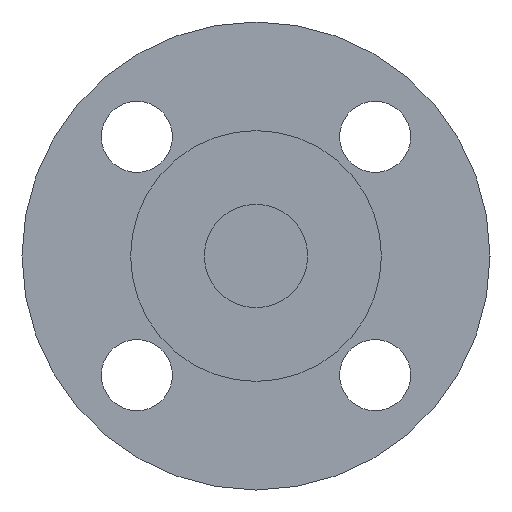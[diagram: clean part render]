
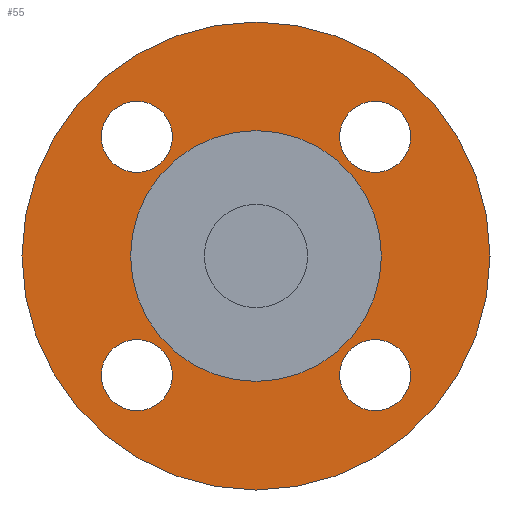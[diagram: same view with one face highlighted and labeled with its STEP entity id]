
A CAD part, left-side view. The second image highlights one B-rep face of the part: STEP entity #55.
In plain terms, the highlighted planar face has unit normal (-1, 0, 0).
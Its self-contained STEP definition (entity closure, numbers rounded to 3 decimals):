
#55=ADVANCED_FACE('',(#257,#258,#259,#260,#261,#262),#256,.T.);
#256=PLANE('',#810);
#257=FACE_OUTER_BOUND('',#811,.T.);
#258=FACE_BOUND('',#812,.T.);
#259=FACE_BOUND('',#813,.T.);
#260=FACE_BOUND('',#814,.T.);
#261=FACE_BOUND('',#815,.T.);
#262=FACE_BOUND('',#816,.T.);
#807=CARTESIAN_POINT('',(1.,-118.253,-135.));
#808=DIRECTION('',(-1.,0.,0.));
#809=DIRECTION('',(0.,0.,1.));
#810=AXIS2_PLACEMENT_3D('',#807,#808,#809);
#811=EDGE_LOOP('',(#1127,#1128));
#812=EDGE_LOOP('',(#1129,#1130));
#813=EDGE_LOOP('',(#1131,#1132));
#814=EDGE_LOOP('',(#1133,#1134));
#815=EDGE_LOOP('',(#1135,#1136));
#816=EDGE_LOOP('',(#1137,#1138));
#1127=ORIENTED_EDGE('',*,*,#1400,.T.);
#1128=ORIENTED_EDGE('',*,*,#1401,.T.);
#1129=ORIENTED_EDGE('',*,*,#1402,.F.);
#1130=ORIENTED_EDGE('',*,*,#1403,.F.);
#1131=ORIENTED_EDGE('',*,*,#1404,.F.);
#1132=ORIENTED_EDGE('',*,*,#1405,.F.);
#1133=ORIENTED_EDGE('',*,*,#1406,.F.);
#1134=ORIENTED_EDGE('',*,*,#1407,.F.);
#1135=ORIENTED_EDGE('',*,*,#1408,.F.);
#1136=ORIENTED_EDGE('',*,*,#1409,.F.);
#1137=ORIENTED_EDGE('',*,*,#1410,.F.);
#1138=ORIENTED_EDGE('',*,*,#1411,.F.);
#1400=EDGE_CURVE('',#1871,#1872,#1873,.T.);
#1401=EDGE_CURVE('',#1872,#1871,#1879,.T.);
#1402=EDGE_CURVE('',#1885,#1886,#1887,.T.);
#1403=EDGE_CURVE('',#1886,#1885,#1893,.T.);
#1404=EDGE_CURVE('',#1899,#1900,#1901,.T.);
#1405=EDGE_CURVE('',#1900,#1899,#1907,.T.);
#1406=EDGE_CURVE('',#1913,#1914,#1915,.T.);
#1407=EDGE_CURVE('',#1914,#1913,#1921,.T.);
#1408=EDGE_CURVE('',#1927,#1928,#1929,.T.);
#1409=EDGE_CURVE('',#1928,#1927,#1935,.T.);
#1410=EDGE_CURVE('',#1941,#1942,#1943,.T.);
#1411=EDGE_CURVE('',#1942,#1941,#1949,.T.);
#1871=VERTEX_POINT('',#2698);
#1872=VERTEX_POINT('',#2699);
#1873=CIRCLE('',#2703,62.5);
#1879=CIRCLE('',#2707,62.5);
#1885=VERTEX_POINT('',#2708);
#1886=VERTEX_POINT('',#2709);
#1887=CIRCLE('',#2713,9.5);
#1893=CIRCLE('',#2717,9.5);
#1899=VERTEX_POINT('',#2718);
#1900=VERTEX_POINT('',#2719);
#1901=CIRCLE('',#2723,9.5);
#1907=CIRCLE('',#2727,9.5);
#1913=VERTEX_POINT('',#2728);
#1914=VERTEX_POINT('',#2729);
#1915=CIRCLE('',#2733,9.5);
#1921=CIRCLE('',#2737,9.5);
#1927=VERTEX_POINT('',#2738);
#1928=VERTEX_POINT('',#2739);
#1929=CIRCLE('',#2743,33.5);
#1935=CIRCLE('',#2747,33.5);
#1941=VERTEX_POINT('',#2748);
#1942=VERTEX_POINT('',#2749);
#1943=CIRCLE('',#2753,9.5);
#1949=CIRCLE('',#2757,9.5);
#2698=CARTESIAN_POINT('',(1.,0.,62.5));
#2699=CARTESIAN_POINT('',(1.,0.,-62.5));
#2700=CARTESIAN_POINT('',(1.,0.,0.));
#2701=DIRECTION('',(-1.,0.,0.));
#2702=DIRECTION('',(0.,0.,1.));
#2703=AXIS2_PLACEMENT_3D('',#2700,#2701,#2702);
#2704=CARTESIAN_POINT('',(1.,0.,0.));
#2705=DIRECTION('',(-1.,0.,0.));
#2706=DIRECTION('',(0.,0.,1.));
#2707=AXIS2_PLACEMENT_3D('',#2704,#2705,#2706);
#2708=CARTESIAN_POINT('',(1.,-31.82,-22.32));
#2709=CARTESIAN_POINT('',(1.,-31.82,-41.32));
#2710=CARTESIAN_POINT('',(1.,-31.82,-31.82));
#2711=DIRECTION('',(-1.,0.,0.));
#2712=DIRECTION('',(0.,0.,-1.));
#2713=AXIS2_PLACEMENT_3D('',#2710,#2711,#2712);
#2714=CARTESIAN_POINT('',(1.,-31.82,-31.82));
#2715=DIRECTION('',(-1.,0.,0.));
#2716=DIRECTION('',(0.,0.,-1.));
#2717=AXIS2_PLACEMENT_3D('',#2714,#2715,#2716);
#2718=CARTESIAN_POINT('',(1.,-31.82,41.32));
#2719=CARTESIAN_POINT('',(1.,-31.82,22.32));
#2720=CARTESIAN_POINT('',(1.,-31.82,31.82));
#2721=DIRECTION('',(-1.,0.,0.));
#2722=DIRECTION('',(0.,0.,-1.));
#2723=AXIS2_PLACEMENT_3D('',#2720,#2721,#2722);
#2724=CARTESIAN_POINT('',(1.,-31.82,31.82));
#2725=DIRECTION('',(-1.,0.,0.));
#2726=DIRECTION('',(0.,0.,-1.));
#2727=AXIS2_PLACEMENT_3D('',#2724,#2725,#2726);
#2728=CARTESIAN_POINT('',(1.,31.82,-22.32));
#2729=CARTESIAN_POINT('',(1.,31.82,-41.32));
#2730=CARTESIAN_POINT('',(1.,31.82,-31.82));
#2731=DIRECTION('',(-1.,0.,0.));
#2732=DIRECTION('',(0.,0.,-1.));
#2733=AXIS2_PLACEMENT_3D('',#2730,#2731,#2732);
#2734=CARTESIAN_POINT('',(1.,31.82,-31.82));
#2735=DIRECTION('',(-1.,0.,0.));
#2736=DIRECTION('',(0.,0.,-1.));
#2737=AXIS2_PLACEMENT_3D('',#2734,#2735,#2736);
#2738=CARTESIAN_POINT('',(1.,0.,-33.5));
#2739=CARTESIAN_POINT('',(1.,0.,33.5));
#2740=CARTESIAN_POINT('',(1.,0.,0.));
#2741=DIRECTION('',(-1.,0.,0.));
#2742=DIRECTION('',(0.,0.,1.));
#2743=AXIS2_PLACEMENT_3D('',#2740,#2741,#2742);
#2744=CARTESIAN_POINT('',(1.,0.,0.));
#2745=DIRECTION('',(-1.,0.,0.));
#2746=DIRECTION('',(0.,0.,1.));
#2747=AXIS2_PLACEMENT_3D('',#2744,#2745,#2746);
#2748=CARTESIAN_POINT('',(1.,31.82,41.32));
#2749=CARTESIAN_POINT('',(1.,31.82,22.32));
#2750=CARTESIAN_POINT('',(1.,31.82,31.82));
#2751=DIRECTION('',(-1.,0.,0.));
#2752=DIRECTION('',(0.,0.,-1.));
#2753=AXIS2_PLACEMENT_3D('',#2750,#2751,#2752);
#2754=CARTESIAN_POINT('',(1.,31.82,31.82));
#2755=DIRECTION('',(-1.,0.,0.));
#2756=DIRECTION('',(0.,0.,-1.));
#2757=AXIS2_PLACEMENT_3D('',#2754,#2755,#2756);
